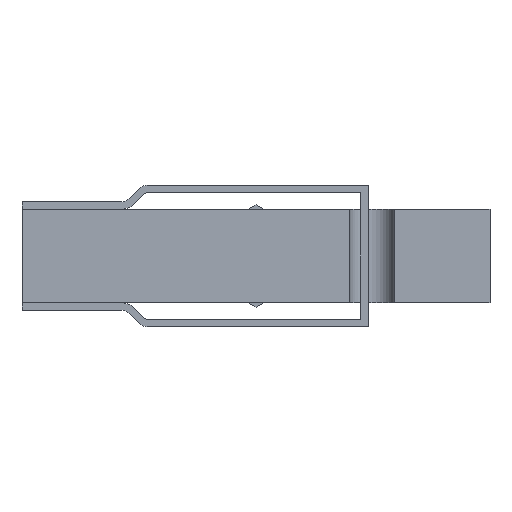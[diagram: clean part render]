
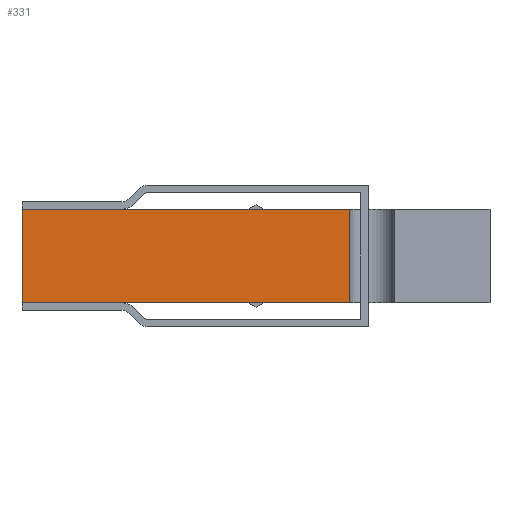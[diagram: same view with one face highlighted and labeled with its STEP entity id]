
A CAD part, left-side view. The second image highlights one B-rep face of the part: STEP entity #331.
In plain terms, the highlighted planar face has unit normal (-1, 0, 0).
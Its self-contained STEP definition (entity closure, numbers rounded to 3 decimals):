
#52 = FACE_OUTER_BOUND ( 'NONE', #2176, .T. ) ;
#58 = AXIS2_PLACEMENT_3D ( 'NONE', #1945, #1877, #1968 ) ;
#100 = EDGE_CURVE ( 'NONE', #2168, #2171, #993, .T. ) ;
#112 = EDGE_CURVE ( 'NONE', #2161, #2194, #896, .T. ) ;
#118 = EDGE_CURVE ( 'NONE', #2194, #2168, #948, .T. ) ;
#324 = EDGE_CURVE ( 'NONE', #2161, #2171, #1168, .T. ) ;
#331 = ADVANCED_FACE ( 'NONE', ( #52 ), #1983, .F. ) ;
#884 = DIRECTION ( 'NONE',  ( 0., 0., -1. ) ) ;
#896 = LINE ( 'NONE', #1022, #2994 ) ;
#948 = LINE ( 'NONE', #1049, #3024 ) ;
#991 = CARTESIAN_POINT ( 'NONE',  ( 0., 19., 0. ) ) ;
#993 = LINE ( 'NONE', #991, #2997 ) ;
#994 = DIRECTION ( 'NONE',  ( 0., 0., 1. ) ) ;
#1022 = CARTESIAN_POINT ( 'NONE',  ( 0., 63.5, 12.7 ) ) ;
#1049 = CARTESIAN_POINT ( 'NONE',  ( 0., 0., 0. ) ) ;
#1052 = DIRECTION ( 'NONE',  ( 0., -1., 0. ) ) ;
#1060 = CARTESIAN_POINT ( 'NONE',  ( 0., 0., 12.7 ) ) ;
#1168 = LINE ( 'NONE', #1060, #1402 ) ;
#1185 = DIRECTION ( 'NONE',  ( 0., -1., 0. ) ) ;
#1221 = CARTESIAN_POINT ( 'NONE',  ( 0., 19., 12.7 ) ) ;
#1231 = CARTESIAN_POINT ( 'NONE',  ( 0., 63.5, 12.7 ) ) ;
#1257 = CARTESIAN_POINT ( 'NONE',  ( 0., 63.5, 0. ) ) ;
#1298 = CARTESIAN_POINT ( 'NONE',  ( 0., 19., 0. ) ) ;
#1402 = VECTOR ( 'NONE', #1185, 1000. ) ;
#1558 = ORIENTED_EDGE ( 'NONE', *, *, #118, .T. ) ;
#1611 = ORIENTED_EDGE ( 'NONE', *, *, #324, .F. ) ;
#1619 = ORIENTED_EDGE ( 'NONE', *, *, #112, .T. ) ;
#1635 = ORIENTED_EDGE ( 'NONE', *, *, #100, .T. ) ;
#1877 = DIRECTION ( 'NONE',  ( 1., 0., 0. ) ) ;
#1945 = CARTESIAN_POINT ( 'NONE',  ( 0., 0., 12.7 ) ) ;
#1968 = DIRECTION ( 'NONE',  ( 0., 0., -1. ) ) ;
#1983 = PLANE ( 'NONE',  #58 ) ;
#2161 = VERTEX_POINT ( 'NONE', #1231 ) ;
#2168 = VERTEX_POINT ( 'NONE', #1298 ) ;
#2171 = VERTEX_POINT ( 'NONE', #1221 ) ;
#2176 = EDGE_LOOP ( 'NONE', ( #1558, #1635, #1611, #1619 ) ) ;
#2194 = VERTEX_POINT ( 'NONE', #1257 ) ;
#2994 = VECTOR ( 'NONE', #884, 1000. ) ;
#2997 = VECTOR ( 'NONE', #994, 1000. ) ;
#3024 = VECTOR ( 'NONE', #1052, 1000. ) ;
